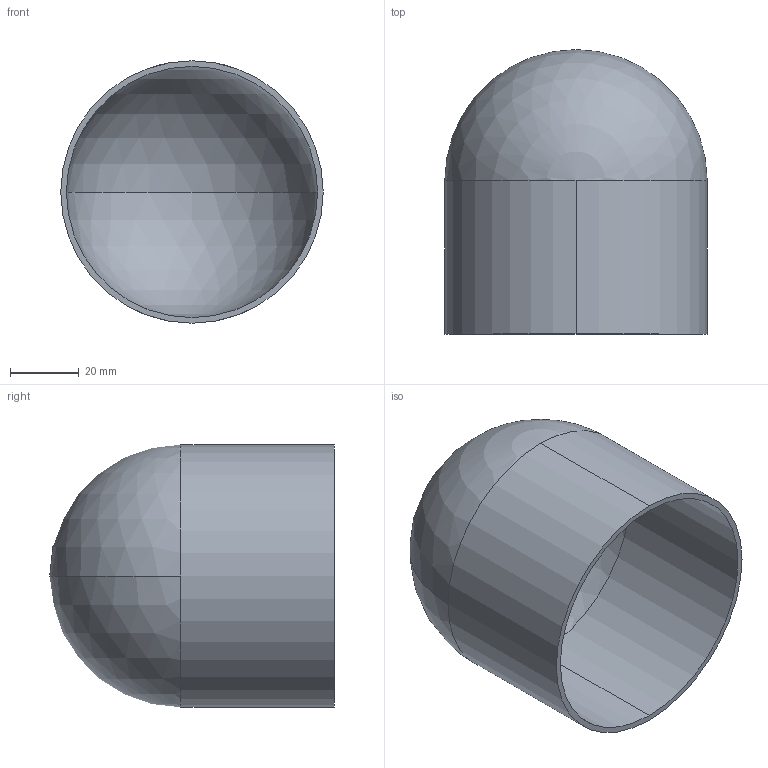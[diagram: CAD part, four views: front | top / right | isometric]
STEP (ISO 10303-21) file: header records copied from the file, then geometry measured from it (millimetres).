
FILE_DESCRIPTION (( 'STEP AP214' ), '1' );
FILE_NAME ('TE16W6L3.0-...STEP', '2016-06-01T14:12:20', ( 'eran' ), ( '' ), 'SwSTEP 2.0', 'SolidWorks 2016', '' );
FILE_SCHEMA (( 'AUTOMOTIVE_DESIGN' ));
Length unit declared in the file: millimetre
Products named in the file (1): TE16W6L3.0-..
Bounding box: 76.2 x 82.6 x 76.2 mm (x, y, z)
Volume: 31603.4 mm3; surface area: 38699.3 mm2
Topology: 1 solids, 1 shells, 9 faces, 24 edges, 14 vertices
Faces by surface type: cylinder 4, sphere 4, plane 1
Entity records: 300 total; most frequent: DIRECTION 56, CARTESIAN_POINT 44, ORIENTED_EDGE 40, AXIS2_PLACEMENT_3D 26, EDGE_CURVE 20, CIRCLE 16, VERTEX_POINT 14, EDGE_LOOP 10
